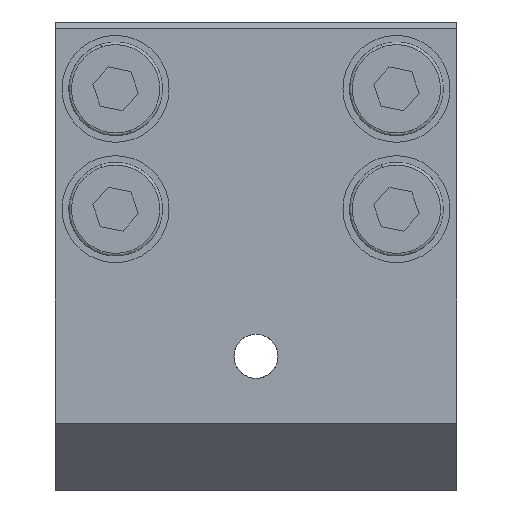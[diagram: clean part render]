
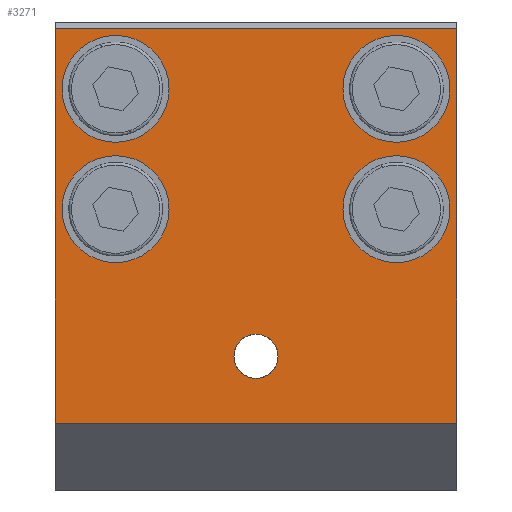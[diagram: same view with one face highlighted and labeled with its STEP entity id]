
A CAD part, front view. The second image highlights one B-rep face of the part: STEP entity #3271.
In plain terms, the highlighted planar face has unit normal (0, -1, 0).
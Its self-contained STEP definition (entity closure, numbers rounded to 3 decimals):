
#12 = CARTESIAN_POINT ( 'NONE',  ( -35.388, 11.183, 3.5 ) ) ;
#130 = CARTESIAN_POINT ( 'NONE',  ( -56.388, 11.183, 12.5 ) ) ;
#834 = EDGE_CURVE ( 'NONE', #40244, #8168, #41012, .T. ) ;
#948 = FACE_BOUND ( 'NONE', #43345, .T. ) ;
#1117 = CARTESIAN_POINT ( 'NONE',  ( -56.388, 11.183, -0.5 ) ) ;
#2056 = FACE_BOUND ( 'NONE', #15598, .T. ) ;
#2344 = CARTESIAN_POINT ( 'NONE',  ( -35.388, 11.183, 12.5 ) ) ;
#2827 = PLANE ( 'NONE',  #37799 ) ;
#2993 = EDGE_CURVE ( 'NONE', #44443, #7708, #17440, .T. ) ;
#3200 = VERTEX_POINT ( 'NONE', #13401 ) ;
#3271 = ADVANCED_FACE ( 'NONE', ( #948, #2056, #19213, #36277, #27240, #18113 ), #2827, .F. ) ;
#3323 = CARTESIAN_POINT ( 'NONE',  ( -45.888, 11.183, -5.85 ) ) ;
#3498 = DIRECTION ( 'NONE',  ( 0., 0., -1. ) ) ;
#3609 = DIRECTION ( 'NONE',  ( 0., 0., -1. ) ) ;
#3692 = DIRECTION ( 'NONE',  ( 0., 0., 1. ) ) ;
#3759 = ORIENTED_EDGE ( 'NONE', *, *, #43872, .T. ) ;
#4121 = AXIS2_PLACEMENT_3D ( 'NONE', #18539, #42466, #21991 ) ;
#4213 = LINE ( 'NONE', #32265, #30478 ) ;
#4289 = VERTEX_POINT ( 'NONE', #43196 ) ;
#4373 = ORIENTED_EDGE ( 'NONE', *, *, #26151, .F. ) ;
#4492 = CARTESIAN_POINT ( 'NONE',  ( -35.388, 11.183, 3.5 ) ) ;
#5224 = CARTESIAN_POINT ( 'NONE',  ( -60.888, 11.183, 17. ) ) ;
#5801 = DIRECTION ( 'NONE',  ( 0., 0., -1. ) ) ;
#6614 = CIRCLE ( 'NONE', #43388, 4. ) ;
#7051 = DIRECTION ( 'NONE',  ( 0., 1., 0. ) ) ;
#7206 = DIRECTION ( 'NONE',  ( 0., -1., 0. ) ) ;
#7272 = VECTOR ( 'NONE', #3692, 1000. ) ;
#7708 = VERTEX_POINT ( 'NONE', #33104 ) ;
#7985 = DIRECTION ( 'NONE',  ( 0., 0., -1. ) ) ;
#8003 = CARTESIAN_POINT ( 'NONE',  ( -35.388, 11.183, 7.5 ) ) ;
#8168 = VERTEX_POINT ( 'NONE', #39478 ) ;
#8466 = CIRCLE ( 'NONE', #41545, 4. ) ;
#8617 = EDGE_CURVE ( 'NONE', #3200, #23163, #4213, .T. ) ;
#8745 = DIRECTION ( 'NONE',  ( 0., 0., -1. ) ) ;
#8756 = EDGE_CURVE ( 'NONE', #29186, #18123, #29944, .T. ) ;
#9197 = ORIENTED_EDGE ( 'NONE', *, *, #36878, .F. ) ;
#9315 = DIRECTION ( 'NONE',  ( 0., -1., 0. ) ) ;
#10210 = DIRECTION ( 'NONE',  ( 0., -1., 0. ) ) ;
#10635 = EDGE_CURVE ( 'NONE', #24164, #4289, #20611, .T. ) ;
#10927 = VERTEX_POINT ( 'NONE', #34580 ) ;
#12360 = CARTESIAN_POINT ( 'NONE',  ( -45.888, 11.183, -7.5 ) ) ;
#12933 = CARTESIAN_POINT ( 'NONE',  ( -35.388, 11.183, -0.5 ) ) ;
#12941 = ORIENTED_EDGE ( 'NONE', *, *, #10635, .F. ) ;
#13401 = CARTESIAN_POINT ( 'NONE',  ( -30.888, 11.183, -12.5 ) ) ;
#13416 = EDGE_CURVE ( 'NONE', #4289, #24164, #16982, .T. ) ;
#15286 = VERTEX_POINT ( 'NONE', #1117 ) ;
#15598 = EDGE_LOOP ( 'NONE', ( #31121, #33249 ) ) ;
#15647 = ORIENTED_EDGE ( 'NONE', *, *, #35120, .F. ) ;
#15708 = EDGE_CURVE ( 'NONE', #22676, #37472, #40101, .T. ) ;
#15769 = CARTESIAN_POINT ( 'NONE',  ( -60.888, 11.183, 0. ) ) ;
#15792 = DIRECTION ( 'NONE',  ( 0., 0., -1. ) ) ;
#16344 = LINE ( 'NONE', #41227, #7272 ) ;
#16475 = AXIS2_PLACEMENT_3D ( 'NONE', #2344, #26303, #5801 ) ;
#16982 = CIRCLE ( 'NONE', #4121, 1.65 ) ;
#17440 = LINE ( 'NONE', #31004, #34551 ) ;
#18113 = FACE_OUTER_BOUND ( 'NONE', #19129, .T. ) ;
#18123 = VERTEX_POINT ( 'NONE', #36162 ) ;
#18539 = CARTESIAN_POINT ( 'NONE',  ( -45.888, 11.183, -7.5 ) ) ;
#18760 = ORIENTED_EDGE ( 'NONE', *, *, #834, .F. ) ;
#18818 = ORIENTED_EDGE ( 'NONE', *, *, #13416, .F. ) ;
#19054 = AXIS2_PLACEMENT_3D ( 'NONE', #29838, #9315, #33206 ) ;
#19129 = EDGE_LOOP ( 'NONE', ( #3759, #24141, #42298, #35334 ) ) ;
#19213 = FACE_BOUND ( 'NONE', #31042, .T. ) ;
#20611 = CIRCLE ( 'NONE', #34337, 1.65 ) ;
#21991 = DIRECTION ( 'NONE',  ( 0., 0., -1. ) ) ;
#22676 = VERTEX_POINT ( 'NONE', #8003 ) ;
#22931 = AXIS2_PLACEMENT_3D ( 'NONE', #27664, #7206, #31106 ) ;
#22981 = LINE ( 'NONE', #15769, #41149 ) ;
#23163 = VERTEX_POINT ( 'NONE', #41844 ) ;
#24017 = DIRECTION ( 'NONE',  ( 0., -1., 0. ) ) ;
#24132 = DIRECTION ( 'NONE',  ( 0., -1., 0. ) ) ;
#24141 = ORIENTED_EDGE ( 'NONE', *, *, #8617, .F. ) ;
#24164 = VERTEX_POINT ( 'NONE', #3323 ) ;
#25075 = EDGE_LOOP ( 'NONE', ( #15647, #18760 ) ) ;
#25260 = CARTESIAN_POINT ( 'NONE',  ( -56.388, 11.183, 16.5 ) ) ;
#26151 = EDGE_CURVE ( 'NONE', #10927, #15286, #33830, .T. ) ;
#26259 = DIRECTION ( 'NONE',  ( 0., 0., -1. ) ) ;
#26285 = EDGE_CURVE ( 'NONE', #18123, #29186, #26866, .T. ) ;
#26303 = DIRECTION ( 'NONE',  ( 0., -1., 0. ) ) ;
#26664 = DIRECTION ( 'NONE',  ( 0., -1., 0. ) ) ;
#26755 = CARTESIAN_POINT ( 'NONE',  ( -56.388, 11.183, 12.5 ) ) ;
#26866 = CIRCLE ( 'NONE', #29689, 4. ) ;
#27240 = FACE_BOUND ( 'NONE', #25075, .T. ) ;
#27664 = CARTESIAN_POINT ( 'NONE',  ( -56.388, 11.183, 3.5 ) ) ;
#27802 = CIRCLE ( 'NONE', #22931, 4. ) ;
#28026 = AXIS2_PLACEMENT_3D ( 'NONE', #12, #24017, #3498 ) ;
#28471 = DIRECTION ( 'NONE',  ( 0., -1., 0. ) ) ;
#29186 = VERTEX_POINT ( 'NONE', #43184 ) ;
#29689 = AXIS2_PLACEMENT_3D ( 'NONE', #30686, #10210, #34103 ) ;
#29838 = CARTESIAN_POINT ( 'NONE',  ( -56.388, 11.183, 3.5 ) ) ;
#29944 = CIRCLE ( 'NONE', #16475, 4. ) ;
#30478 = VECTOR ( 'NONE', #35685, 1000. ) ;
#30686 = CARTESIAN_POINT ( 'NONE',  ( -35.388, 11.183, 12.5 ) ) ;
#31004 = CARTESIAN_POINT ( 'NONE',  ( -45.888, 11.183, 17. ) ) ;
#31038 = DIRECTION ( 'NONE',  ( 1., 0., 0. ) ) ;
#31042 = EDGE_LOOP ( 'NONE', ( #9197, #37534 ) ) ;
#31106 = DIRECTION ( 'NONE',  ( 0., 0., -1. ) ) ;
#31121 = ORIENTED_EDGE ( 'NONE', *, *, #26285, .F. ) ;
#32265 = CARTESIAN_POINT ( 'NONE',  ( -45.888, 11.183, -12.5 ) ) ;
#32343 = AXIS2_PLACEMENT_3D ( 'NONE', #26755, #26664, #26259 ) ;
#33104 = CARTESIAN_POINT ( 'NONE',  ( -30.888, 11.183, 17. ) ) ;
#33157 = EDGE_LOOP ( 'NONE', ( #39678, #4373 ) ) ;
#33206 = DIRECTION ( 'NONE',  ( 0., 0., -1. ) ) ;
#33249 = ORIENTED_EDGE ( 'NONE', *, *, #8756, .F. ) ;
#33830 = CIRCLE ( 'NONE', #19054, 4. ) ;
#34103 = DIRECTION ( 'NONE',  ( 0., 0., -1. ) ) ;
#34337 = AXIS2_PLACEMENT_3D ( 'NONE', #12360, #36219, #15792 ) ;
#34551 = VECTOR ( 'NONE', #31038, 1000. ) ;
#34580 = CARTESIAN_POINT ( 'NONE',  ( -56.388, 11.183, 7.5 ) ) ;
#35001 = DIRECTION ( 'NONE',  ( 0., 0., 1. ) ) ;
#35120 = EDGE_CURVE ( 'NONE', #8168, #40244, #8466, .T. ) ;
#35334 = ORIENTED_EDGE ( 'NONE', *, *, #2993, .F. ) ;
#35685 = DIRECTION ( 'NONE',  ( -1., 0., 0. ) ) ;
#35735 = EDGE_CURVE ( 'NONE', #3200, #7708, #16344, .T. ) ;
#36162 = CARTESIAN_POINT ( 'NONE',  ( -35.388, 11.183, 8.5 ) ) ;
#36219 = DIRECTION ( 'NONE',  ( 0., -1., 0. ) ) ;
#36277 = FACE_BOUND ( 'NONE', #33157, .T. ) ;
#36878 = EDGE_CURVE ( 'NONE', #37472, #22676, #6614, .T. ) ;
#36960 = CARTESIAN_POINT ( 'NONE',  ( -60.888, 11.183, -12.5 ) ) ;
#37472 = VERTEX_POINT ( 'NONE', #12933 ) ;
#37534 = ORIENTED_EDGE ( 'NONE', *, *, #15708, .F. ) ;
#37799 = AXIS2_PLACEMENT_3D ( 'NONE', #36960, #7051, #35001 ) ;
#39478 = CARTESIAN_POINT ( 'NONE',  ( -56.388, 11.183, 8.5 ) ) ;
#39678 = ORIENTED_EDGE ( 'NONE', *, *, #39848, .F. ) ;
#39848 = EDGE_CURVE ( 'NONE', #15286, #10927, #27802, .T. ) ;
#40101 = CIRCLE ( 'NONE', #28026, 4. ) ;
#40244 = VERTEX_POINT ( 'NONE', #25260 ) ;
#41012 = CIRCLE ( 'NONE', #32343, 4. ) ;
#41149 = VECTOR ( 'NONE', #8745, 1000. ) ;
#41227 = CARTESIAN_POINT ( 'NONE',  ( -30.888, 11.183, 0. ) ) ;
#41545 = AXIS2_PLACEMENT_3D ( 'NONE', #130, #24132, #3609 ) ;
#41844 = CARTESIAN_POINT ( 'NONE',  ( -60.888, 11.183, -12.5 ) ) ;
#42298 = ORIENTED_EDGE ( 'NONE', *, *, #35735, .T. ) ;
#42466 = DIRECTION ( 'NONE',  ( 0., -1., 0. ) ) ;
#43184 = CARTESIAN_POINT ( 'NONE',  ( -35.388, 11.183, 16.5 ) ) ;
#43196 = CARTESIAN_POINT ( 'NONE',  ( -45.888, 11.183, -9.15 ) ) ;
#43345 = EDGE_LOOP ( 'NONE', ( #18818, #12941 ) ) ;
#43388 = AXIS2_PLACEMENT_3D ( 'NONE', #4492, #28471, #7985 ) ;
#43872 = EDGE_CURVE ( 'NONE', #44443, #23163, #22981, .T. ) ;
#44443 = VERTEX_POINT ( 'NONE', #5224 ) ;
